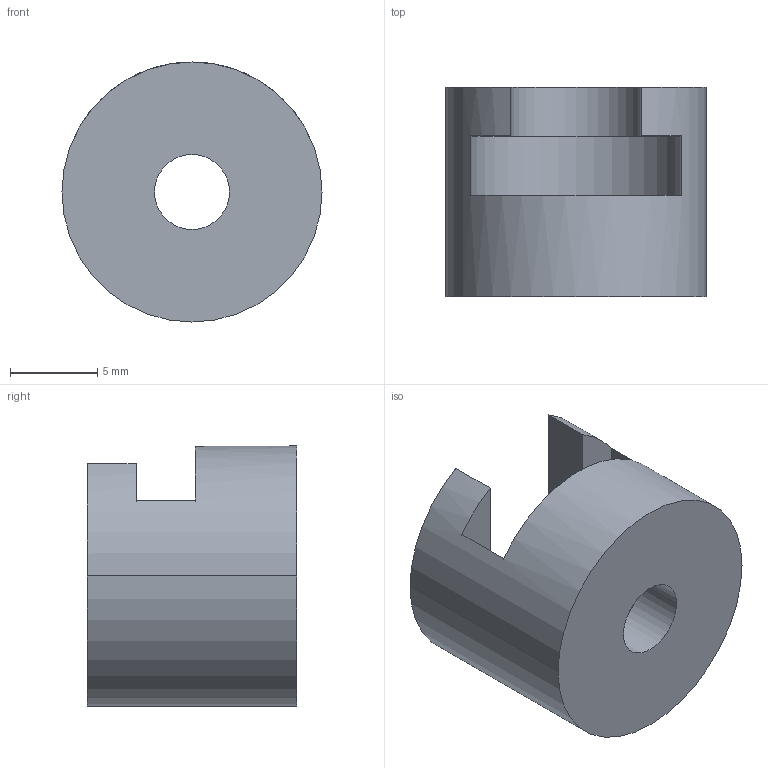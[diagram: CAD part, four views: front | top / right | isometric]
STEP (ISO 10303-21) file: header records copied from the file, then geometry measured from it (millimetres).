
FILE_DESCRIPTION (( 'STEP AP203' ), '1' );
FILE_NAME ('D10009291_KU-Modell_NovaPro_Bueroreling-Fronthalter_01.step', '2025-03-18T15:14:18', ( '' ), ( '' ), 'SwSTEP 2.0', 'SolidWorks 2023', '' );
FILE_SCHEMA (( 'CONFIG_CONTROL_DESIGN' ));
Length unit declared in the file: millimetre
Products named in the file (1): D10009291_KU-Modell_NovaPro_Bueroreling-Fronthalter_01
Bounding box: 14.9 x 12 x 14.9 mm (x, y, z)
Volume: 1250 mm3; surface area: 1202.9 mm2
Topology: 1 solids, 1 shells, 17 faces, 42 edges, 28 vertices
Faces by surface type: plane 9, cylinder 8
Entity records: 597 total; most frequent: DIRECTION 98, CARTESIAN_POINT 88, ORIENTED_EDGE 84, EDGE_CURVE 42, AXIS2_PLACEMENT_3D 38, VERTEX_POINT 28, LINE 22, VECTOR 22
